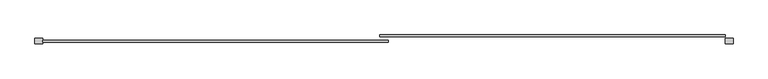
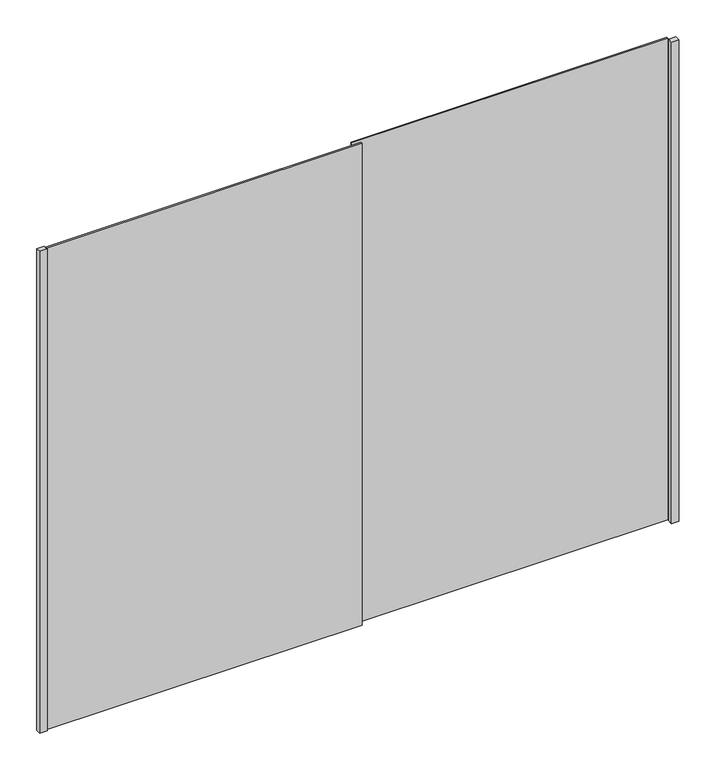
"""IFC4 building model written with IfcOpenShell, lengths in millimetres: furniture geometry, Puerta Closet corre 2 hojas : Puerta corrdiza 2 hojas PCLE-06."""

from ifc_helpers import new_model, si_unit, origin, origin_with_axes, place, context, project, spatial, polyline, outline, extrude, source, transform, mapped, element, save


def furniture_b4357b38(model_context):
    return source(origin(), model_context, "Body", "SweptSolid", [
        extrude(outline(polyline([(760.0, 80.0), (730.0, 80.0), (730.0, 100.0), (760.0, 100.0), (760.0, 80.0)])), origin_with_axes(), (0.0, 0.0, 1.0), 2070.0),
        extrude(outline(polyline([(730.0, 106.6666667), (-555.0, 106.6666667), (-555.0, 113.3333333), (730.0, 113.3333333), (730.0, 106.6666667)])), origin_with_axes(), (0.0, 0.0, 1.0), 2070.0),
        extrude(outline(polyline([(-525.0, 86.6666667), (-1810.0, 86.6666667), (-1810.0, 93.3333333), (-525.0, 93.3333333), (-525.0, 86.6666667)])), origin_with_axes(), (0.0, 0.0, 1.0), 2070.0),
        extrude(outline(polyline([(-1840.0, 80.0), (-1840.0, 100.0), (-1810.0, 100.0), (-1810.0, 80.0), (-1840.0, 80.0)])), origin_with_axes(), (0.0, 0.0, 1.0), 2070.0),
    ])


if __name__ == "__main__":
    model = new_model("IFC4")
    model_context = context("Model", 3, world=origin())
    ifc_project = project(units=[si_unit("LENGTHUNIT", "METRE", prefix="MILLI")], contexts=[model_context])
    site = spatial("IfcSite", under=ifc_project)
    building = spatial("IfcBuilding", under=site)
    placement = place(None, origin())
    furniture_shape = furniture_b4357b38(model_context)
    element("IfcFurniture", 1, ObjectType="Puerta Closet corre 2 hojas : Puerta corrdiza 2 hojas PCLE-06", at=placement, inside=building, context=model_context, shape_type="MappedRepresentation", body=[
        mapped(furniture_shape, transform((0.0, 0.0, 0.0), x_axis=(1.0, 0.0, 0.0), y_axis=(0.0, 1.0, 0.0), z_axis=(0.0, 0.0, 1.0))),
    ])
    save(model, "model.ifc")
